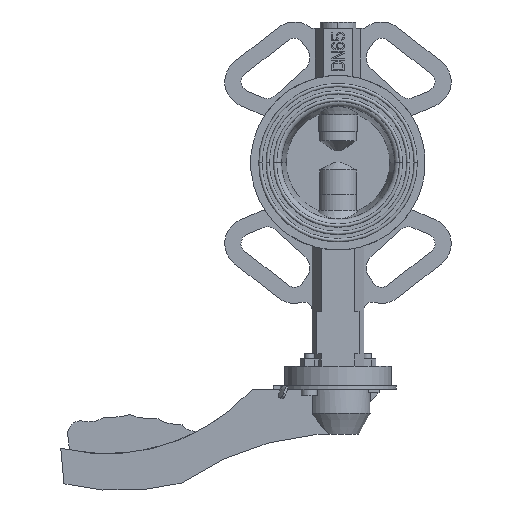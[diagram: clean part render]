
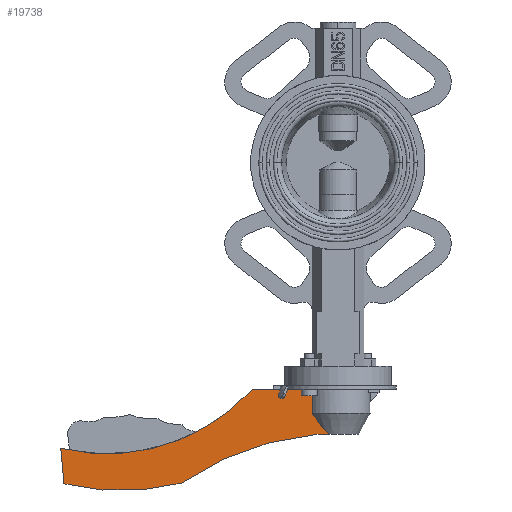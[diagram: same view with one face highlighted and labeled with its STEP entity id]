
A CAD part, front view. The second image highlights one B-rep face of the part: STEP entity #19738.
In plain terms, the highlighted planar face has unit normal (0, -1, 0) as drawn and (0, 0, 1) by its records, which use the part's own axes.
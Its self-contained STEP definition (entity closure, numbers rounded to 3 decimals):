
#18898=DIRECTION('',(1.,0.,0.));
#18899=VECTOR('',#18898,37.);
#18900=CARTESIAN_POINT('',(16.,0.,12.));
#18901=LINE('',#18900,#18899);
#18966=DIRECTION('',(0.,1.,0.));
#18967=VECTOR('',#18966,15.);
#18968=CARTESIAN_POINT('',(16.,0.,12.));
#18969=LINE('',#18968,#18967);
#19121=DIRECTION('',(-1.,0.,0.));
#19122=VECTOR('',#19121,8.);
#19123=CARTESIAN_POINT('',(13.,28.,12.));
#19124=LINE('',#19123,#19122);
#19125=CARTESIAN_POINT('',(-2.144,202.343,12.));
#19126=DIRECTION('',(0.,0.,-1.));
#19127=DIRECTION('',(0.567,-0.824,0.));
#19128=AXIS2_PLACEMENT_3D('',#19125,#19126,#19127);
#19130=CARTESIAN_POINT('',(133.983,-86.2,12.));
#19131=DIRECTION('',(0.,0.,1.));
#19132=DIRECTION('',(0.238,0.971,0.));
#19133=AXIS2_PLACEMENT_3D('',#19130,#19131,#19132);
#19135=DIRECTION('',(-0.087,0.996,0.));
#19136=VECTOR('',#19135,22.);
#19137=CARTESIAN_POINT('',(171.371,36.6,12.));
#19138=LINE('',#19137,#19136);
#19139=CARTESIAN_POINT('',(142.889,-81.,12.));
#19140=DIRECTION('',(0.,0.,-1.));
#19141=DIRECTION('',(-0.743,0.669,0.));
#19142=AXIS2_PLACEMENT_3D('',#19139,#19140,#19141);
#19164=CARTESIAN_POINT('',(5.,28.,12.));
#19165=CARTESIAN_POINT('',(5.552,27.605,12.));
#19166=CARTESIAN_POINT('',(6.667,26.698,12.));
#19167=CARTESIAN_POINT('',(8.382,25.002,12.));
#19168=CARTESIAN_POINT('',(10.153,22.988,12.));
#19169=CARTESIAN_POINT('',(12.,20.659,12.));
#19170=CARTESIAN_POINT('',(13.936,18.017,12.));
#19171=CARTESIAN_POINT('',(15.3,16.04,12.));
#19172=CARTESIAN_POINT('',(16.,15.,12.));
#19300=CARTESIAN_POINT('',(53.,0.,12.));
#19301=CARTESIAN_POINT('',(171.371,36.6,12.));
#19302=VERTEX_POINT('',#19300);
#19303=VERTEX_POINT('',#19301);
#19304=CARTESIAN_POINT('',(169.454,58.516,12.));
#19305=VERTEX_POINT('',#19304);
#19306=CARTESIAN_POINT('',(97.,58.137,12.));
#19307=VERTEX_POINT('',#19306);
#19308=CARTESIAN_POINT('',(13.,28.,12.));
#19309=VERTEX_POINT('',#19308);
#19314=CARTESIAN_POINT('',(16.,0.,12.));
#19315=CARTESIAN_POINT('',(16.,15.,12.));
#19316=VERTEX_POINT('',#19314);
#19317=VERTEX_POINT('',#19315);
#19318=VERTEX_POINT('',#19164);
#19718=CARTESIAN_POINT('',(0.,0.,12.));
#19719=DIRECTION('',(0.,0.,1.));
#19720=DIRECTION('',(1.,0.,0.));
#19721=AXIS2_PLACEMENT_3D('',#19718,#19719,#19720);
#19722=PLANE('',#19721);
#19723=ORIENTED_EDGE('',*,*,#19539,.T.);
#19725=ORIENTED_EDGE('',*,*,#19724,.F.);
#19727=ORIENTED_EDGE('',*,*,#19726,.F.);
#19729=ORIENTED_EDGE('',*,*,#19728,.F.);
#19731=ORIENTED_EDGE('',*,*,#19730,.F.);
#19733=ORIENTED_EDGE('',*,*,#19732,.F.);
#19734=ORIENTED_EDGE('',*,*,#19701,.F.);
#19735=ORIENTED_EDGE('',*,*,#19417,.F.);
#19736=EDGE_LOOP('',(#19723,#19725,#19727,#19729,#19731,#19733,#19734,#19735));
#19737=FACE_OUTER_BOUND('',#19736,.F.);
#19738=ADVANCED_FACE('',(#19737),#19722,.T.);
#19129=CIRCLE('',#19128,175.);
#19134=CIRCLE('',#19133,149.);
#19143=CIRCLE('',#19142,121.);
#19173=B_SPLINE_CURVE_WITH_KNOTS('',3,(#19164,#19165,#19166,#19167,#19168,
#19169,#19170,#19171,#19172),.UNSPECIFIED.,.F.,.F.,(4,1,1,1,1,1,4),(0.,
0.167,0.333,0.5,0.667,0.833,
1.),.UNSPECIFIED.);
#19417=EDGE_CURVE('',#19316,#19302,#18901,.T.);
#19539=EDGE_CURVE('',#19316,#19317,#18969,.T.);
#19701=EDGE_CURVE('',#19302,#19303,#19143,.T.);
#19724=EDGE_CURVE('',#19318,#19317,#19173,.T.);
#19726=EDGE_CURVE('',#19309,#19318,#19124,.T.);
#19728=EDGE_CURVE('',#19307,#19309,#19129,.T.);
#19730=EDGE_CURVE('',#19305,#19307,#19134,.T.);
#19732=EDGE_CURVE('',#19303,#19305,#19138,.T.);
